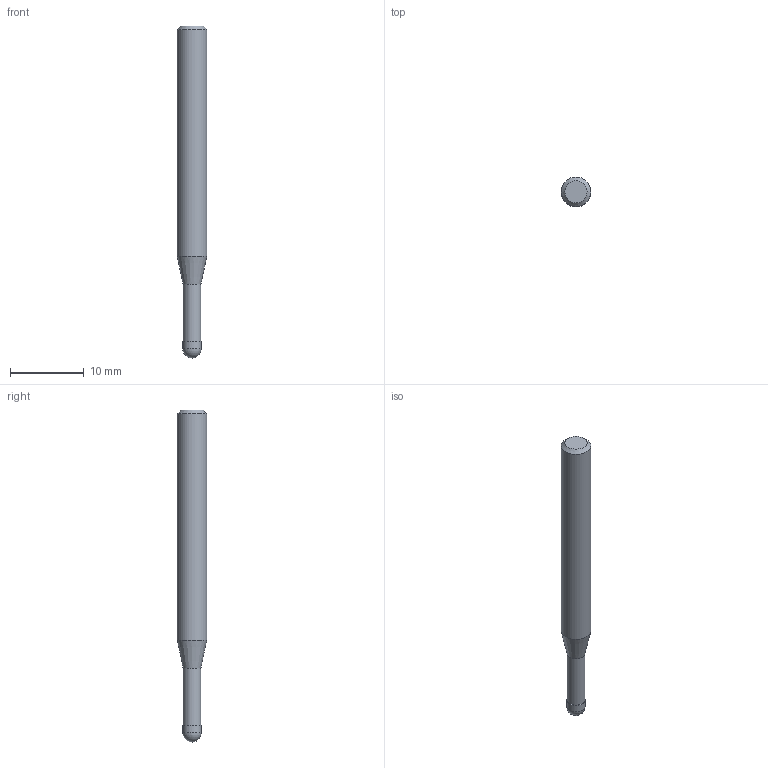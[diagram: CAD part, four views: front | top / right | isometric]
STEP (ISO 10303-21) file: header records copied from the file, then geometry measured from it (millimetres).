
FILE_DESCRIPTION((''),'2;1');
FILE_NAME('C:\Users\nsx150\AppData\Local\Temp\Mastercam 2021\3SYKECWX22\TEMP.step','2021-04-22T10:04:38',(''),(''),'STEP Write','Mastercam 2021 ... CNC Software, Inc.','');
FILE_SCHEMA(('AUTOMOTIVE_DESIGN'));
Length unit declared in the file: millimetre
Products named in the file (1): None
Bounding box: 4 x 4 x 45 mm (x, y, z)
Volume: 466.1 mm3; surface area: 525.3 mm2
Topology: 2 solids, 2 shells, 9 faces, 14 edges, 8 vertices
Faces by surface type: plane 3, cylinder 3, cone 2, sphere 1
Full cylindrical faces by diameter (mm): 2.4 x1, 2.5 x1, 4 x1
Entity records: 211 total; most frequent: DIRECTION 36, CARTESIAN_POINT 25, AXIS2_PLACEMENT_3D 18, ORIENTED_EDGE 14, EDGE_LOOP 14, STYLED_ITEM 12, ADVANCED_FACE 9, FACE_BOUND 8
